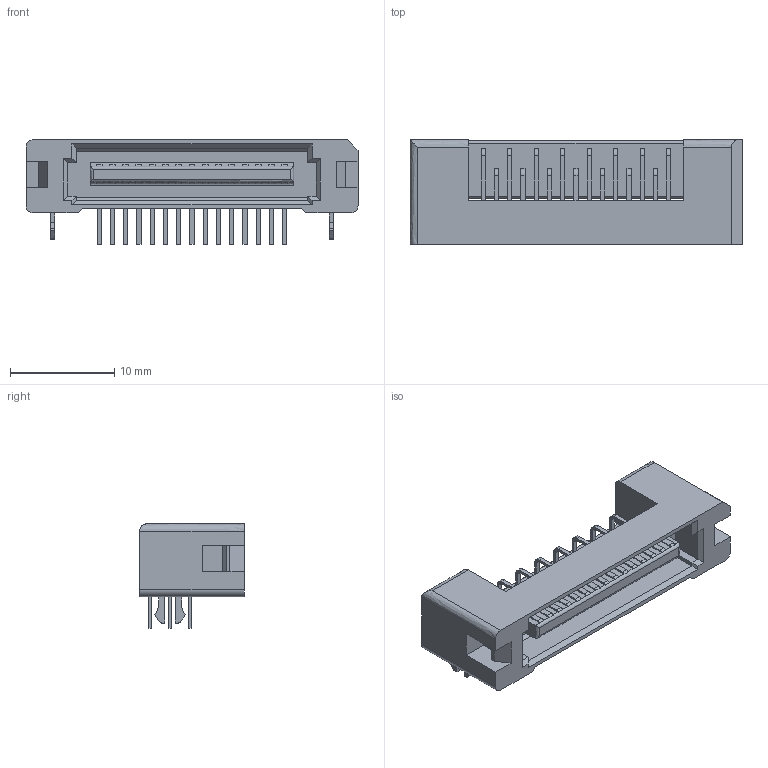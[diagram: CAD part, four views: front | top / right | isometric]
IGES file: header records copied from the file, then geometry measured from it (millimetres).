
Start section: Elysium IGES Interface
Global section: file name: 60HF:\図面登録\3DCAD\89XX\web用図面\4-IGES\8931E-030-178L-F.igs; native system: CoCreate Modeling 17.0B  09-Oct-2010; preprocessor: CoCreate IGES_3D V2.2; author: Unknown; organization: Unknown; date: 20170907.113440; units: millimetre
Bounding box: 31.78 x 10 x 10 mm (x, y, z)
Volume: 1165.8 mm3; surface area: 1943.5 mm2
Topology: 1 solids, 1 shells, 662 faces, 1855 edges, 1229 vertices
Faces by surface type: bspline 662
